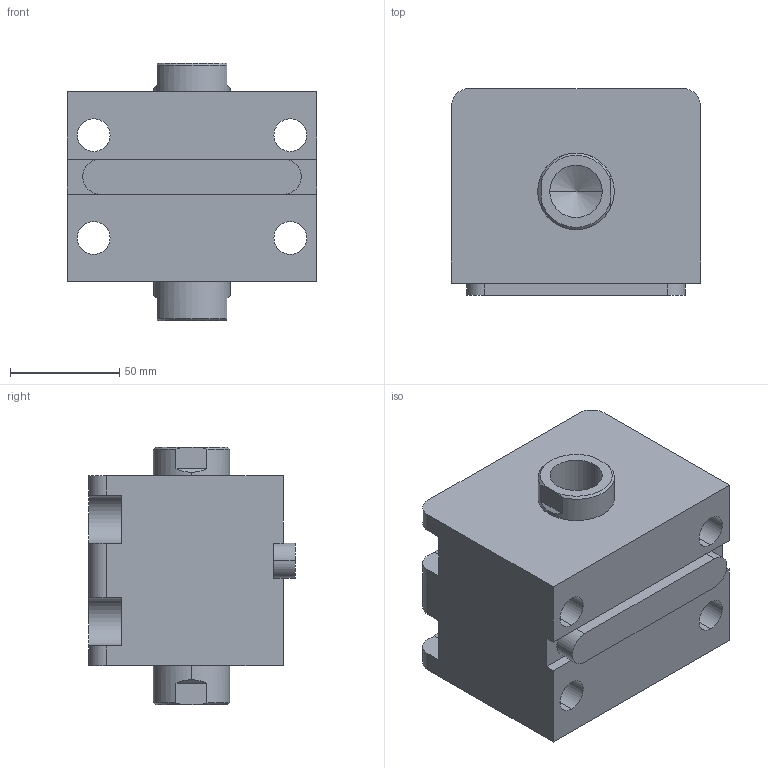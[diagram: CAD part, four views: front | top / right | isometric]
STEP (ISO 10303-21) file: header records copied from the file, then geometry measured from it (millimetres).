
FILE_DESCRIPTION (( 'STEP AP203' ), '1' );
FILE_NAME ('HTB-LW63-5N.STEP', '2019-10-09T08:22:52', ( '微软用户' ), ( '微软中国' ), 'SwSTEP 2.0', 'SolidWorks 2012', '' );
FILE_SCHEMA (( 'CONFIG_CONTROL_DESIGN' ));
Length unit declared in the file: millimetre
Products named in the file (4): HTB-LW63-5N; HTB-LA63-瑩; HTB-LW63-5N活塞杆; HTB-LW63-5掛极
Assembly tree (3 placements, depth 2):
  HTB-LW63-5N
    HTB-LW63-5掛极
    HTB-LW63-5N活塞杆
    HTB-LA63-瑩
Bounding box: 114 x 94.5 x 118 mm (x, y, z)
Volume: 788320.7 mm3; surface area: 117513.3 mm2
Topology: 3 solids, 3 shells, 101 faces, 253 edges, 164 vertices
Faces by surface type: plane 44, cylinder 41, cone 12, torus 4
Entity records: 3467 total; most frequent: CARTESIAN_POINT 576, DIRECTION 549, ORIENTED_EDGE 498, EDGE_CURVE 249, AXIS2_PLACEMENT_3D 209, VERTEX_POINT 164, LINE 131, VECTOR 131
